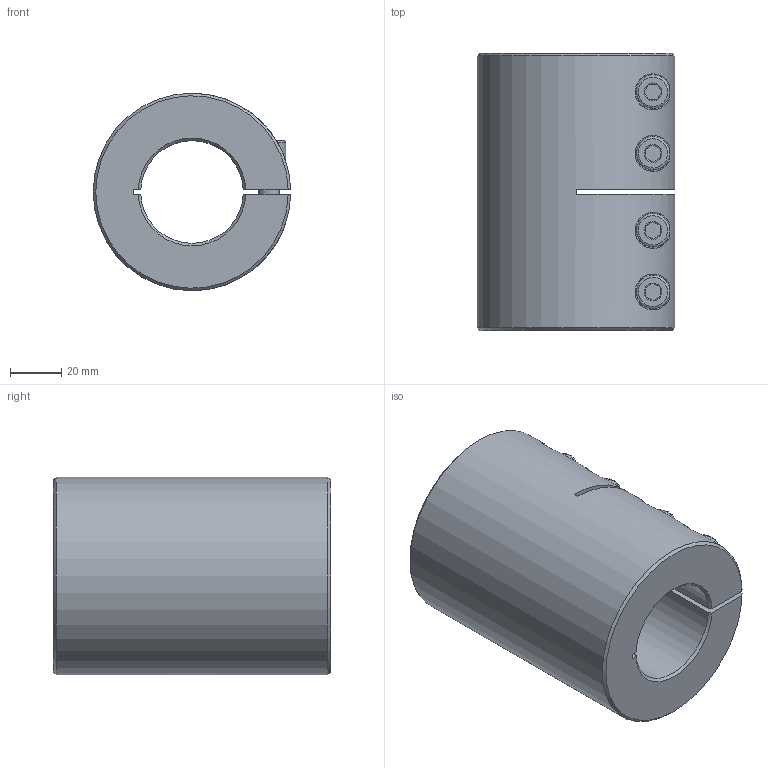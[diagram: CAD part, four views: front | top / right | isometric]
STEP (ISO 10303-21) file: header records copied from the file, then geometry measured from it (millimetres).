
FILE_DESCRIPTION( ( 'Unknown' ), '1' );
FILE_NAME( 'K:/Konstruktion/Fertigungszeichnungen/Schalenkupplung/KBST/KBST-40.stp', 'Unknown', ( 'Unknown' ), ( 'Unknown' ), 'PSStep 16.0.42', 'Unknown', ' ' );
FILE_SCHEMA( ( 'AUTOMOTIVE_DESIGN { 1 0 10303 214 1 1 1 1 }' ) );
Length unit declared in the file: millimetre
Products named in the file (3): Assem1; ISO EN DIN 4762 M8x30; KBST-40
Assembly tree (5 placements, depth 2):
  Assem1
    ISO EN DIN 4762 M8x30  x4
    KBST-40
Bounding box: 76.99 x 108 x 77 mm (x, y, z)
Volume: 355887.6 mm3; surface area: 62576.5 mm2
Topology: 5 solids, 5 shells, 140 faces, 278 edges, 168 vertices
Faces by surface type: plane 67, cone 34, cylinder 31, torus 8
Full cylindrical faces by diameter (mm): 6.647 x4, 7 x4, 8 x8, 8.5 x4, 13 x4
Entity records: 2976 total; most frequent: CARTESIAN_POINT 973, DIRECTION 298, ORIENTED_EDGE 258, EDGE_CURVE 129, AXIS2_PLACEMENT_3D 124, EDGE_LOOP 104, VERTEX_POINT 91, FACE_OUTER_BOUND 79
